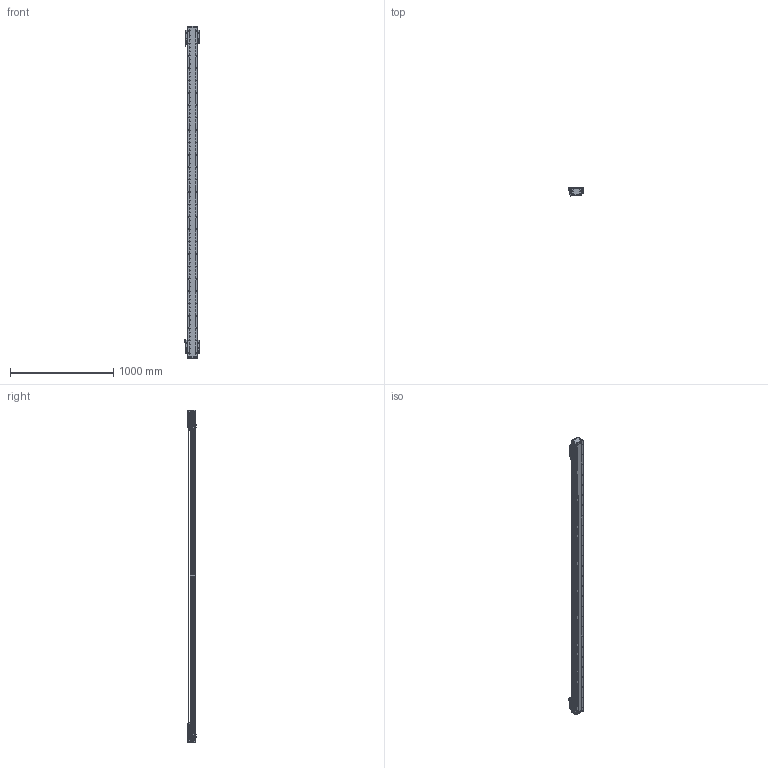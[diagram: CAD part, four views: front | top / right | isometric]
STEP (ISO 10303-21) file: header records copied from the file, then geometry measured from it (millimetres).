
FILE_DESCRIPTION (( 'STEP AP203' ), '1' );
FILE_NAME ('DA-B95-2-B15-T2840-C010-0.2 直线电机.STEP', '2023-05-06T06:43:17', ( '微软用户' ), ( '微软中国' ), 'SwSTEP 2.0', 'SolidWorks 2019', '' );
FILE_SCHEMA (( 'CONFIG_CONTROL_DESIGN' ));
Length unit declared in the file: millimetre
Products named in the file (34): DA95-HXJ-00 缓冲橡胶^DA-A95-B15-T-C010-0.2-N 直线电机; 葩璃 BKM015-W060-C1-TP-DA-0.2^DA-A95-B15-T-C010-0.2-N 眻盄萇儂; 复件 DKW-KGZ-ZJ-00 中间光电开关支架^DA-A95-B15-T-C010-0.2-N 直线电机; 复件 DA95-B15 钢带盖板^DA-A95-B15-T-C010-0.2-N 直线电机; 复件 66245-BU95-HT-V-01 滑动台板^66245-BU95-V-00 一体化滑动台板; 葩璃 BKMA01-W060-TRL^DA-A95-B15-T-C010-0.2-N 眻盄萇儂; LMDK-2-R001-V5-L02-C1-F00，0.2M 读数头^DA-A95-B15-T-C010-0.2-N 直线电机_DMA-010-0.2; 葩璃 PM-Y45^DA-A95-B15-T-C010-0.2-N 眻盄萇儂; PM-T45 光电开关^DA-A95-B15-T-C010-0.2-N 直线电机; 复件 六角薄螺母 M3^DA-A95-B15-T-C010-0.2-N 直线电机_GB_FASTENER_NUT_STNAB M3-C; 葩璃 DA95-B15-DP-A-00 菜えA^66245-BU95-V 幗紩賑怢; DA-A95-GYP-00 光电感应片^DA-A95-B15-T-C010-0.2-N 直线电机; 复件 DKW-HXJ-JY-00 缓冲橡胶^DA-A95-B15-T-C010-0.2-N 直线电机; 66245-BU95-V 幗紩賑怢; 葩璃 DA95-B15-DP--B-00 菜えB^66245-BU95-V 幗紩賑怢; 葩璃 DA95-GT-T-00^IU-BU95-L 菁釱絳寢_DA95; 复件 复件 18252-0001-002-00 钢带垫块^DA-A95-B15-T-C010-0.2-N 直线电机; 复件 DA95-DB-00  挡板^66245-BU95-V 滚珠滑台; 66245-BU95-V-00 珨极趙賑雄怢啣; 复件 DA95-MFP-01 密封片^66245-BU95-V 滚珠滑台; B15 XD-U-02L ｴﾅﾕ､ｳﾟ^DA-A95-B15-T-C010-0.2-N ﾖｱﾏﾟｵ扈銈XD-U-02L; 复件 DA95-B15-YB-A-00 压板A^66245-BU95-V 滚珠滑台; 复件 纯铜油杯 6x6mm^66245-BU95-V 滚珠滑台; IU-BU95-L 菁釱絳寢; 复件 DKW-GYP-ZJ-00 中间光电感应片^DA-A95-B15-T-C010-0.2-N 直线电机; 复件 DA95-HK-GT-00 滑块钢轨^66245-BU95-V-00 一体化滑动台板; 复件 复件 18252-0001-004-00 钢带端盖^DA-A95-B15-T-C010-0.2-N 直线电机; 复件 DA95-B15-YB-B-00 压板B^66245-BU95-V 滚珠滑台; DA-B95-2-B15-T2840-C010-0.2 眻盄萇儂; IU-BU95-L-00 菁釱_L3180; 复件 复件 18252-0001-003-00 钢带拉块^DA-A95-B15-T-C010-0.2-N 直线电机; 复件 DA95-DK-00 挡块^66245-BU95-V 滚珠滑台
Assembly tree (80 placements, depth 4):
  DA-B95-2-B15-T2840-C010-0.2 眻盄萇儂
    IU-BU95-L 菁釱絳寢
      IU-BU95-L-00 菁釱_L3180
      葩璃 DA95-GT-T-00^IU-BU95-L 菁釱絳寢_DA95  x2
    66245-BU95-V 幗紩賑怢
      66245-BU95-V-00 珨极趙賑雄怢啣
        复件 66245-BU95-HT-V-01 滑动台板^66245-BU95-V-00 一体化滑动台板
        复件 DA95-HK-GT-00 滑块钢轨^66245-BU95-V-00 一体化滑动台板  x2
      葩璃 DA95-B15-DP-A-00 菜えA^66245-BU95-V 幗紩賑怢
      复件 DA95-B15-YB-A-00 压板A^66245-BU95-V 滚珠滑台
      复件 DA95-B15-YB-B-00 压板B^66245-BU95-V 滚珠滑台
      复件 DA95-DB-00  挡板^66245-BU95-V 滚珠滑台  x4
      复件 DA95-DK-00 挡块^66245-BU95-V 滚珠滑台  x2
      复件 DA95-MFP-01 密封片^66245-BU95-V 滚珠滑台  x4
      复件 纯铜油杯 6x6mm^66245-BU95-V 滚珠滑台  x2
      葩璃 DA95-B15-DP--B-00 菜えB^66245-BU95-V 幗紩賑怢
    66245-BU95-V 幗紩賑怢
      66245-BU95-V-00 珨极趙賑雄怢啣
        复件 66245-BU95-HT-V-01 滑动台板^66245-BU95-V-00 一体化滑动台板
        复件 DA95-HK-GT-00 滑块钢轨^66245-BU95-V-00 一体化滑动台板  x2
      葩璃 DA95-B15-DP-A-00 菜えA^66245-BU95-V 幗紩賑怢
      复件 DA95-B15-YB-A-00 压板A^66245-BU95-V 滚珠滑台
      复件 DA95-B15-YB-B-00 压板B^66245-BU95-V 滚珠滑台
      复件 DA95-DB-00  挡板^66245-BU95-V 滚珠滑台  x4
      复件 DA95-DK-00 挡块^66245-BU95-V 滚珠滑台  x2
      复件 DA95-MFP-01 密封片^66245-BU95-V 滚珠滑台  x4
      复件 纯铜油杯 6x6mm^66245-BU95-V 滚珠滑台  x2
      葩璃 DA95-B15-DP--B-00 菜えB^66245-BU95-V 幗紩賑怢
    DA-A95-GYP-00 光电感应片^DA-A95-B15-T-C010-0.2-N 直线电机  x2
    LMDK-2-R001-V5-L02-C1-F00，0.2M 读数头^DA-A95-B15-T-C010-0.2-N 直线电机_DMA-010-0.2  x2
    复件 DKW-KGZ-ZJ-00 中间光电开关支架^DA-A95-B15-T-C010-0.2-N 直线电机
    葩璃 PM-Y45^DA-A95-B15-T-C010-0.2-N 眻盄萇儂
    复件 DKW-GYP-ZJ-00 中间光电感应片^DA-A95-B15-T-C010-0.2-N 直线电机
    葩璃 BKM015-W060-C1-TP-DA-0.2^DA-A95-B15-T-C010-0.2-N 眻盄萇儂  x2
    复件 DKW-HXJ-JY-00 缓冲橡胶^DA-A95-B15-T-C010-0.2-N 直线电机  x2
    PM-T45 光电开关^DA-A95-B15-T-C010-0.2-N 直线电机  x4
    B15 XD-U-02L ｴﾅﾕ､ｳﾟ^DA-A95-B15-T-C010-0.2-N ﾖｱﾏﾟｵ扈銈XD-U-02L
    复件 复件 18252-0001-003-00 钢带拉块^DA-A95-B15-T-C010-0.2-N 直线电机  x2
    复件 复件 18252-0001-002-00 钢带垫块^DA-A95-B15-T-C010-0.2-N 直线电机  x2
    复件 复件 18252-0001-004-00 钢带端盖^DA-A95-B15-T-C010-0.2-N 直线电机  x2
    复件 DA95-B15 钢带盖板^DA-A95-B15-T-C010-0.2-N 直线电机
    DA95-HXJ-00 缓冲橡胶^DA-A95-B15-T-C010-0.2-N 直线电机  x4
    葩璃 BKMA01-W060-TRL^DA-A95-B15-T-C010-0.2-N 眻盄萇儂
    复件 六角薄螺母 M3^DA-A95-B15-T-C010-0.2-N 直线电机_GB_FASTENER_NUT_STNAB M3-C  x6
Bounding box: 145.4 x 90.2 x 3216 mm (x, y, z)
Volume: 10109986.7 mm3; surface area: 3376880.3 mm2
Topology: 75 solids, 93 shells, 4496 faces, 12916 edges, 8223 vertices
Faces by surface type: cylinder 2381, plane 1583, cone 464, torus 64, sphere 4
Entity records: 115936 total; most frequent: CARTESIAN_POINT 31634, ORIENTED_EDGE 17190, DIRECTION 16348, EDGE_CURVE 8595, AXIS2_PLACEMENT_3D 6249, VERTEX_POINT 5625, VECTOR 3850, LINE 3850
